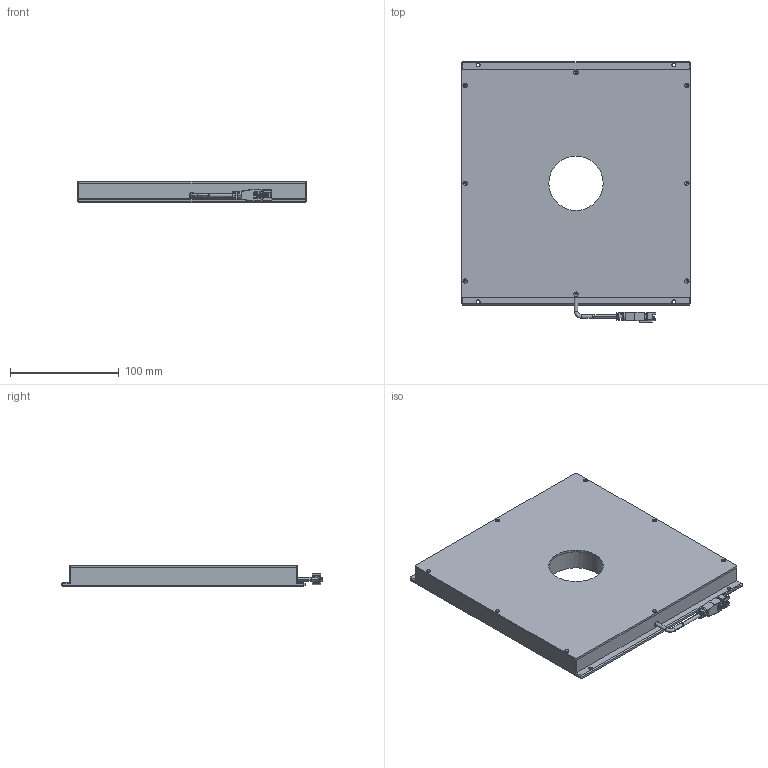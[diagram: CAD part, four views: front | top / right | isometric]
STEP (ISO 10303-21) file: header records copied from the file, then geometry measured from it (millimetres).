
FILE_DESCRIPTION (( 'STEP AP203' ), '1' );
FILE_NAME ('CRT-KFLD200200Y50-¼òÒ×3DÍ¼.STEP', '2021-11-24T02:23:54', ( 'Admin' ), ( '' ), 'SwSTEP 2.0', 'SolidWorks 2018', '' );
FILE_SCHEMA (( 'CONFIG_CONTROL_DESIGN' ));
Length unit declared in the file: millimetre
Products named in the file (1): CRT-KFLD200200Y50-潠眢3D芞
Bounding box: 210 x 239.95 x 20 mm (x, y, z)
Surface area: 158026.3 mm2 (no closed solid volume)
Topology: 0 solids, 4 shells, 255 faces, 764 edges, 497 vertices
Faces by surface type: plane 145, cylinder 78, cone 20, bspline 11, torus 1
Entity records: 9051 total; most frequent: CARTESIAN_POINT 2132, DIRECTION 1424, ORIENTED_EDGE 1343, EDGE_CURVE 762, VERTEX_POINT 497, LINE 488, VECTOR 488, AXIS2_PLACEMENT_3D 468
